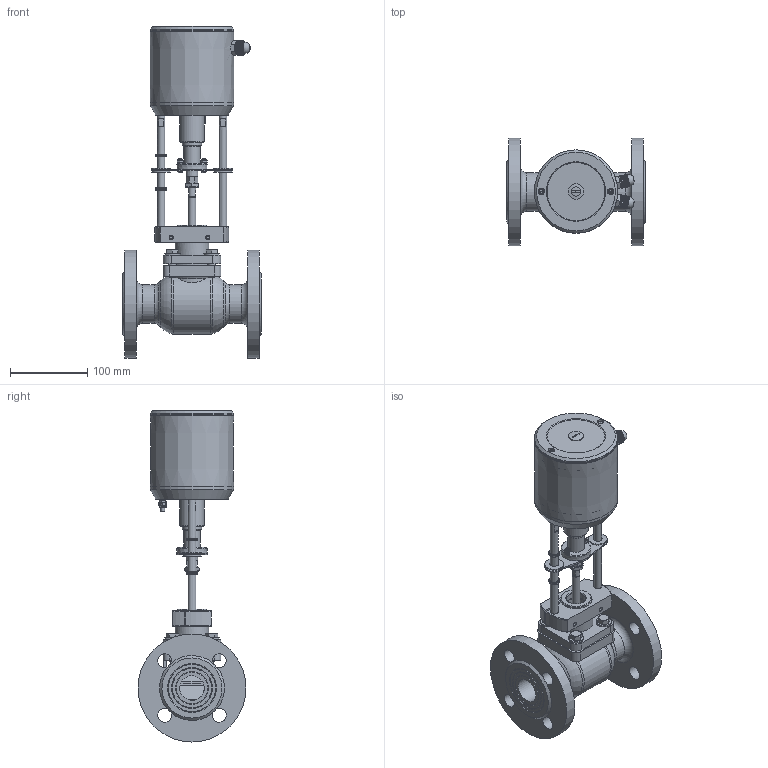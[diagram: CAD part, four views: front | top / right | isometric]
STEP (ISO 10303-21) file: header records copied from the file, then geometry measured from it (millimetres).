
FILE_DESCRIPTION(('STEP AP203'), '1');
FILE_NAME('ÊÏÑ-2 Äó 32 ñ ÝÏ-100-01', '', ('UNSPECIFIED'), ('UNSPECIFIED'), 'ASCON STEP Converter 1.3', 'ASCON Math Kernel', '');
FILE_SCHEMA(('CONFIG_CONTROL_DESIGN'));
Length unit declared in the file: millimetre
Bounding box: 180 x 140 x 430.42 mm (x, y, z)
Volume: 1340728.1 mm3; surface area: 380529.5 mm2
Topology: 21 solids, 25 shells, 2134 faces, 5574 edges, 3628 vertices
Faces by surface type: cylinder 1010, plane 819, cone 197, bspline 58, torus 41, sphere 5, revolution 4
Full cylindrical faces by diameter (mm): 1.7 x2, 2 x2, 2.8 x2, 3.3 x2, 3.341 x3, 3.5 x4, 3.8 x2, 4 x6, 4.2 x2, 4.8 x2, 4.999 x6, 5 x14, 5.199 x3, 5.3 x3, 5.4 x3, 5.999 x3, 6 x6, 6.2 x2, 6.647 x2, 6.793 x2, 7 x4, 7.5 x1, 8 x3, 8.2 x2, 8.376 x1, 8.4 x2, 8.5 x2, 9.2 x4, 9.5 x1, 9.6 x2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
Entity records: 108018 total; most frequent: CARTESIAN_POINT 40983, ORIENTED_EDGE 10272, DIRECTION 9798, EDGE_CURVE 5136, AXIS2_PLACEMENT_3D 3874, VERTEX_POINT 3619, EDGE_LOOP 2806, COLOUR_RGB 2150
